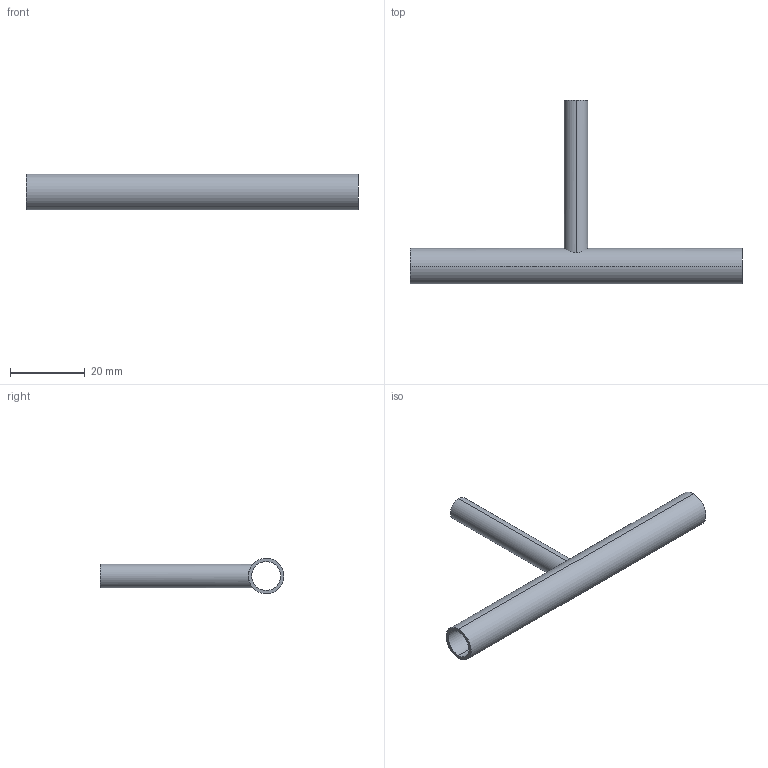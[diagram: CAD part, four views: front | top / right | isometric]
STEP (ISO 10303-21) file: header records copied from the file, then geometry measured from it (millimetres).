
FILE_DESCRIPTION (( 'STEP AP214' ), '1' );
FILE_NAME ('TE7RWWW6L.375x.25-...STEP', '2016-05-24T04:04:22', ( 'eran' ), ( '' ), 'SwSTEP 2.0', 'SolidWorks 2016', '' );
FILE_SCHEMA (( 'AUTOMOTIVE_DESIGN' ));
Length unit declared in the file: millimetre
Products named in the file (1): TE7RWWW6L.375x.25-..
Bounding box: 89 x 49.27 x 9.53 mm (x, y, z)
Volume: 2748.1 mm3; surface area: 6236.8 mm2
Topology: 1 solids, 1 shells, 11 faces, 24 edges, 16 vertices
Faces by surface type: cylinder 8, plane 3
Entity records: 464 total; most frequent: CARTESIAN_POINT 172, DIRECTION 56, ORIENTED_EDGE 48, EDGE_CURVE 24, AXIS2_PLACEMENT_3D 24, VERTEX_POINT 16, EDGE_LOOP 16, CIRCLE 12
